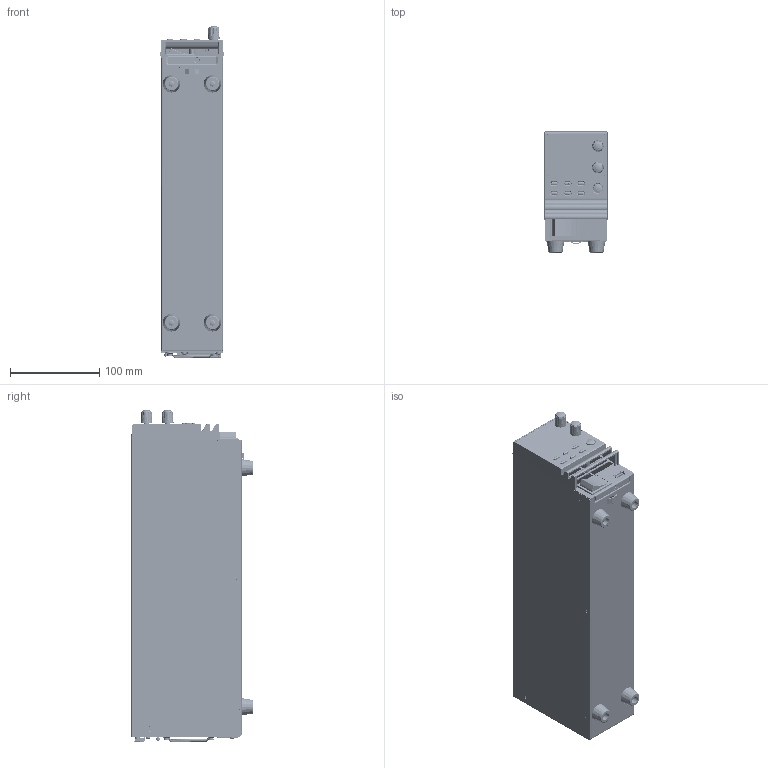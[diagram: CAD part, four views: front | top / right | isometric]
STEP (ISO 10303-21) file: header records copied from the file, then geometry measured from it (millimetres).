
FILE_DESCRIPTION((''),'2;1');
FILE_NAME('ASM0024_ASM','2020-02-20T17:22:20',('shane_wang'),(''),'CREO PARAMETRIC BY PTC INC, 2019080','CREO PARAMETRIC BY PTC INC, 2019080','');
FILE_SCHEMA(('CONFIG_CONTROL_DESIGN'));
Products named in the file (68): 63FP-AG107501_391_1_1_1_2_3_4_7; INSERT-CU_10_1_1_1_2_3_4_5_6_7; 63FP-AG107501_ASM_46_ASM_1_AS_3_ASM; TACT_SWITCH_TC002_8_1_1_1_2_3_7; DISPLAY_14_1_1_1_2_3_4_5_6_7; ENCODE_SW_L25-ALPS_8_1_1_1_2__7; LED-6X4_DIP_5_1_1_1_2_3_4_5_6_7; PSW-F-PCB_ASM_ASM_102_ASM_1_A_3_ASM; 63KE-XG2001A1_268_1_1_1_2_3_4_7; 5005-130G0101_32_1_1_1_2_3_4__7; 51SW-30080101_96_1_1_1_2_3_4__7; 51SW-804002A1_122_1_1_1_2_3_4_9; PSW-F1_ASM_ASM_478_ASM_1_ASM__3_ASM; 62SW-360FP1A1_429_1_1_1_2_3; 62SW-360FP1A1_ASM_24_ASM_1_AS_3_ASM; POWER_SW_AJ8R1013_28_1_1_1_2__7; PSW-FP1_ASM_ASM_32_ASM_1_ASM__3_ASM; BMS-3X6_12_1_1_1_2_3; BMS-W-3X6_11_1_1_1_2_3_4; 62SW-360LO1A1_293_1_1_1_2_3; BSO-M3X55_10_1_1_1_2_3_4_5_6_7; 62SW-360LO1A1_ASM_94_ASM_1_AS_3_ASM; PSW-MAINPCB_229_1_1_1_2_3; 3P-AC-INLET_3_1_1_1_2_3_4_5_6_8; USB2_7_1_1_1_2_3_4_5_6_7_8; RJ-45_16_1_1_1_2_3_4_5_6_7_8_9; 62SW-080HP1A1_32_1_1_1_2_3_4; PSW-MAINPCB1_ASM_ASM_131_ASM__6_ASM; BMS-LOCK-3X4_9_1_1_1_2_3_4_5__8; 57FC-10B0100_GL-4L-B_3_1_1_1__8; BMS-W-3X10_11_1_1_1_2_3_4; BOX-TYPE-PLUGS-26PIN_1_1_1_1__7; DOUBLE-ROW-SOCKETS_1_ASM_1_AS_4; DOUBLE-ROW-SOCKETS_ASM_ASM_1_29_ASM; USB_7_1_1_1_2_3_4_5_6_7_8; 62SW-080HP501_22_1_1_1_2_3_4_5; PSW-HIGH-VOLTAGE-AG-PCB-M_AS_14_ASM; PSW-HIGH-VOLTAGE-LO-M1_ASM_AS_3_ASM; 62SW-360RP201_96_1_1_1_2_3; 62SW-360RP201_ASM_15_ASM_1_AS_3_ASM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
Assembly tree (142 placements, depth 8):
  ASM0024_ASM
    PSW-HIGH-VOLTAGE-M1_ASM_-2100_6_ASM
      PSW-HIGH-VOLTAGE-M1_ASM_-2100_5_ASM
        PSW-HIGH-VOLTAGE-M1_ASM_ASM_4_3_ASM
          PSW-F1_ASM_ASM_478_ASM_1_ASM__3_ASM
            63FP-AG107501_ASM_46_ASM_1_AS_3_ASM
              63FP-AG107501_391_1_1_1_2_3_4_7
              INSERT-CU_10_1_1_1_2_3_4_5_6_7  x2
            PSW-F-PCB_ASM_ASM_102_ASM_1_A_3_ASM
              TACT_SWITCH_TC002_8_1_1_1_2_3_7  x7
              DISPLAY_14_1_1_1_2_3_4_5_6_7  x8
              ENCODE_SW_L25-ALPS_8_1_1_1_2__7  x2
              LED-6X4_DIP_5_1_1_1_2_3_4_5_6_7  x17
            63KE-XG2001A1_268_1_1_1_2_3_4_7
            5005-130G0101_32_1_1_1_2_3_4__7  x2
            51SW-30080101_96_1_1_1_2_3_4__7
            51SW-804002A1_122_1_1_1_2_3_4_9
          PSW-FP1_ASM_ASM_32_ASM_1_ASM__3_ASM
            62SW-360FP1A1_ASM_24_ASM_1_AS_3_ASM
              62SW-360FP1A1_429_1_1_1_2_3
            POWER_SW_AJ8R1013_28_1_1_1_2__7
          BMS-3X6_12_1_1_1_2_3
          BMS-W-3X6_11_1_1_1_2_3_4
          PSW-HIGH-VOLTAGE-LO-M1_ASM_AS_3_ASM
            62SW-360LO1A1_ASM_94_ASM_1_AS_3_ASM
              62SW-360LO1A1_293_1_1_1_2_3
              BSO-M3X55_10_1_1_1_2_3_4_5_6_7  x6
            PSW-MAINPCB1_ASM_ASM_131_ASM__6_ASM
              PSW-MAINPCB_229_1_1_1_2_3
              3P-AC-INLET_3_1_1_1_2_3_4_5_6_8
              USB2_7_1_1_1_2_3_4_5_6_7_8
              RJ-45_16_1_1_1_2_3_4_5_6_7_8_9
              62SW-080HP1A1_32_1_1_1_2_3_4
            BMS-LOCK-3X4_9_1_1_1_2_3_4_5__8  x6
            57FC-10B0100_GL-4L-B_3_1_1_1__8  x4
            BMS-W-3X10_11_1_1_1_2_3_4  x4
            PSW-HIGH-VOLTAGE-AG-PCB-M_AS_14_ASM
              DOUBLE-ROW-SOCKETS_ASM_ASM_1_29_ASM
                BOX-TYPE-PLUGS-26PIN_1_1_1_1__7
                DOUBLE-ROW-SOCKETS_1_ASM_1_AS_4
              USB_7_1_1_1_2_3_4_5_6_7_8
              62SW-080HP501_22_1_1_1_2_3_4_5
          PSW-HIGH-VOLTAGE-RP-1-M1_ASM__3_ASM
            62SW-360RP201_ASM_15_ASM_1_AS_3_ASM
              62SW-360RP201_96_1_1_1_2_3
            FAN-60X60-25_26_ASM_1_ASM_1_1_4_ASM
              FAN-60X60-25_26_1_1_1_1_2_3_4
              FAN-60X60-25_26_2_1_1_1_2_3_4
            FAN-NET-60-60_2_ASM_1_ASM_1_1_4_ASM
              FAN-NET-60-60_2_1_1_1_1_2_3_4
              FAN-NET-60-60_2_2_1_1_1_2_3_4
              FAN-NET-60-60_2_3_1_1_1_2_3_4
              FAN-NET-60-60_2_4_1_1_1_2_3_4
              FAN-NET-60-60_2_5_1_1_1_2_3_4
              FAN-NET-60-60_2_6_1_1_1_2_3_4
            BMS-W-3X32_11_1_1_1_2_3_4_5_6_8  x4
          FMS110-3X6_4_1_1_1_2_3  x20
          PMS-W-3X8_9_1_1_1_2_3_4_5_6  x5
          PSW-HV-FILTER-PCB-M1_ASM_ASM__3_ASM
            ME030-381-9P_7_1_1_1_2_3
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Bounding box: 70.8 x 136.4 x 372.35 mm (x, y, z)
Volume: 301904.8 mm3; surface area: 469527.6 mm2
Topology: 120 solids, 120 shells, 8174 faces, 21048 edges, 13488 vertices
Faces by surface type: plane 5654, cylinder 1449, cone 551, bspline 286, torus 118, sphere 116
Entity records: 172704 total; most frequent: CARTESIAN_POINT 44324, ORIENTED_EDGE 26496, DIRECTION 26353, EDGE_CURVE 13248, VECTOR 9255, LINE 9255, AXIS2_PLACEMENT_3D 8549, VERTEX_POINT 8445
